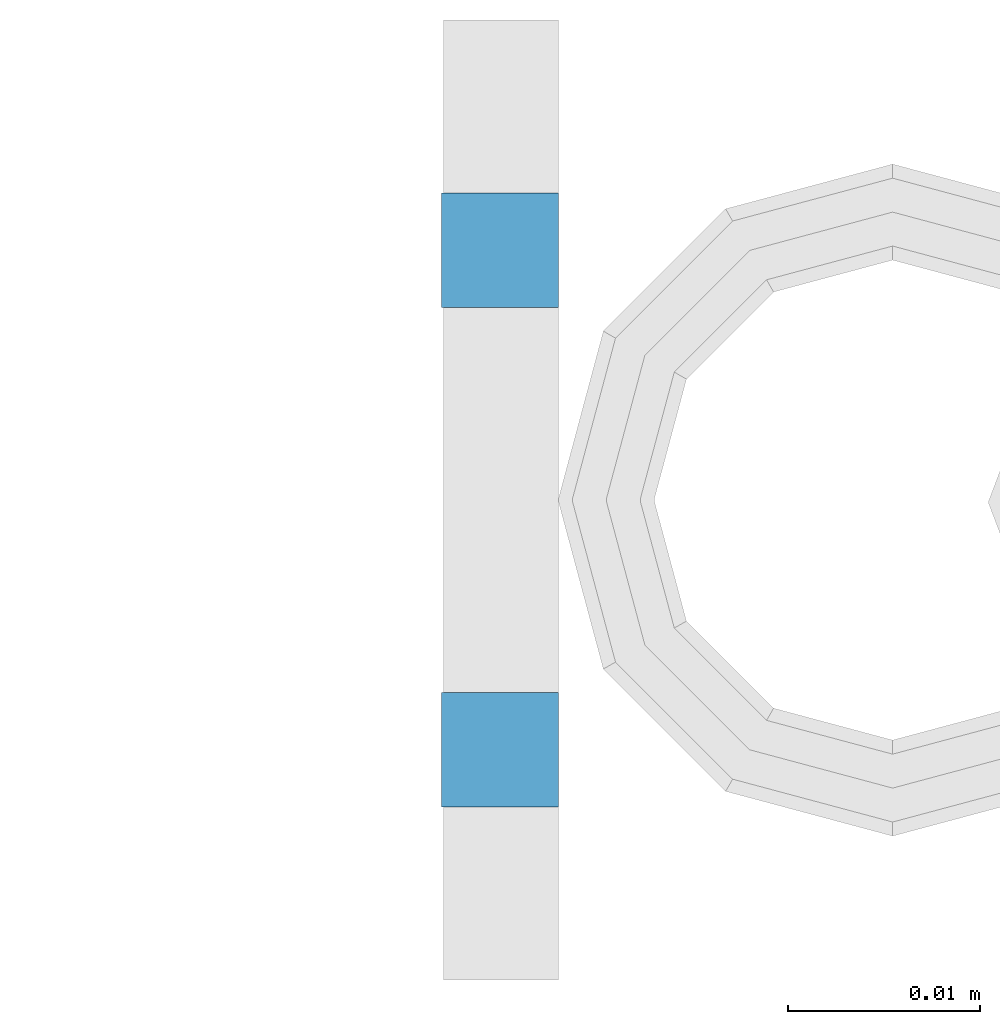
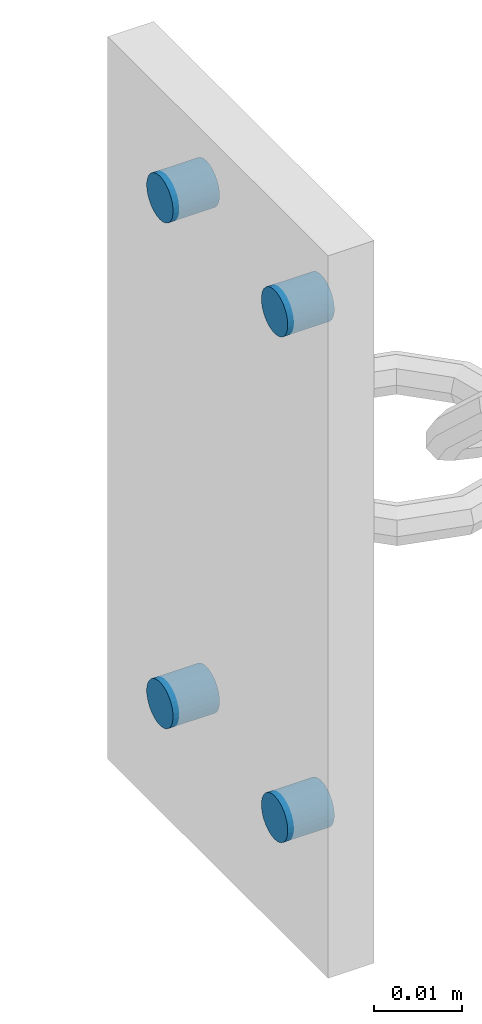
# One storey, part 71 of 91: 4 mechanical fasteners, 1 element without a shape of its own.
"""IFC2X3 building model written with IfcOpenShell, lengths in millimetres."""

from ifc_helpers import new_model, si_unit, frame, origin_with_axes, origin_2d_with_axis, place, context, subcontext, project, spatial, circle, extrude, source, transform, mapped, material, type_object, element, aggregate, save


model = new_model("IFC2X3")

# Units and contexts
model_context = context("Model", 3, precision=1e-05, world=origin_with_axes())
body_context = subcontext(model_context, "Body", "Model", "MODEL_VIEW")
ifc_project = project(units=[si_unit("LENGTHUNIT", "METRE", prefix="MILLI"), si_unit("AREAUNIT", "SQUARE_METRE"), si_unit("VOLUMEUNIT", "CUBIC_METRE"), si_unit("MASSUNIT", "GRAM", prefix="KILO"), si_unit("TIMEUNIT", "SECOND"), si_unit("PLANEANGLEUNIT", "RADIAN"), si_unit("SOLIDANGLEUNIT", "STERADIAN"), si_unit("THERMODYNAMICTEMPERATUREUNIT", "DEGREE_CELSIUS"), si_unit("LUMINOUSINTENSITYUNIT", "LUMEN")], contexts=[model_context])

# Site, building, storey
site_placement = place(None, origin_with_axes())
site = spatial("IfcSite", under=ifc_project, at=site_placement, Name="Undefined", CompositionType="ELEMENT")
building_placement = place(site_placement, origin_with_axes())
building = spatial("IfcBuilding", under=site, at=building_placement, Name="Undefined", CompositionType="ELEMENT")
storey_placement = place(building_placement, origin_with_axes())
storey = spatial("IfcBuildingStorey", under=building, at=storey_placement, Name="Undefined", CompositionType="ELEMENT", Elevation=0.0)

# Assembly, mechanical fasteners
assembly_placement = place(storey_placement, origin_with_axes())
assembly = element("IfcElementAssembly", 1, at=assembly_placement, inside=storey, Name="PLATE", AssemblyPlace="NOTDEFINED", PredefinedType="RIGID_FRAME")
ifc_material = material(Name="8.8S")
discrete_accessory_type = type_object("IfcDiscreteAccessoryType", Name="Bolt assembly")
shared_shape = source(origin_with_axes(), body_context, "Body", "SweptSolid", [
    extrude(circle(Radius=3.0, at=origin_2d_with_axis()), frame((0.0, 0.0, 0.0), z_axis=(0.0, 1.0, 0.0), x_axis=(1.0, 0.0, 0.0)), (0.0, 0.0, 1.0), 6.1),
])
mechanical_fastener_1_placement = place(assembly_placement, frame((-116364.352606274, 92770.0317781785, -40.9952125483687), z_axis=(0.0, -1.0, 0.0), x_axis=(0.0, 0.0, 1.0)))
mechanical_fastener_1 = element("IfcMechanicalFastener", 2, at=mechanical_fastener_1_placement, type_object=discrete_accessory_type, material=ifc_material, Name="Bolt assembly", NominalDiameter=6.0, NominalLength=6.0, context=body_context, shape_type="MappedRepresentation", body=[
    mapped(shared_shape, transform((0.0, 0.0, 0.0))),
])
mechanical_fastener_2_placement = place(assembly_placement, frame((-116364.352606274, 92744.0282218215, -40.9952125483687), z_axis=(0.0, -1.0, 0.0), x_axis=(0.0, 0.0, 1.0)))
mechanical_fastener_2 = element("IfcMechanicalFastener", 3, at=mechanical_fastener_2_placement, type_object=discrete_accessory_type, material=ifc_material, Name="Bolt assembly", NominalDiameter=6.0, NominalLength=6.0, context=body_context, shape_type="MappedRepresentation", body=[
    mapped(shared_shape, transform((0.0, 0.0, 0.0))),
])
mechanical_fastener_3_placement = place(assembly_placement, frame((-116364.352606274, 92770.0317781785, 29.0), z_axis=(0.0, 1.0, 0.0), x_axis=(0.0, 0.0, -1.0)))
mechanical_fastener_3 = element("IfcMechanicalFastener", 4, at=mechanical_fastener_3_placement, type_object=discrete_accessory_type, material=ifc_material, Name="Bolt assembly", NominalDiameter=6.0, NominalLength=6.0, context=body_context, shape_type="MappedRepresentation", body=[
    mapped(shared_shape, transform((0.0, 0.0, 0.0))),
])
mechanical_fastener_4_placement = place(assembly_placement, frame((-116364.352606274, 92744.0282218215, 29.0), z_axis=(0.0, 1.0, 0.0), x_axis=(0.0, 0.0, -1.0)))
mechanical_fastener_4 = element("IfcMechanicalFastener", 5, at=mechanical_fastener_4_placement, type_object=discrete_accessory_type, material=ifc_material, Name="Bolt assembly", NominalDiameter=6.0, NominalLength=6.0, context=body_context, shape_type="MappedRepresentation", body=[
    mapped(shared_shape, transform((0.0, 0.0, 0.0))),
])
aggregate(assembly, [mechanical_fastener_1, mechanical_fastener_2, mechanical_fastener_3, mechanical_fastener_4])

save(model, "model.ifc")
